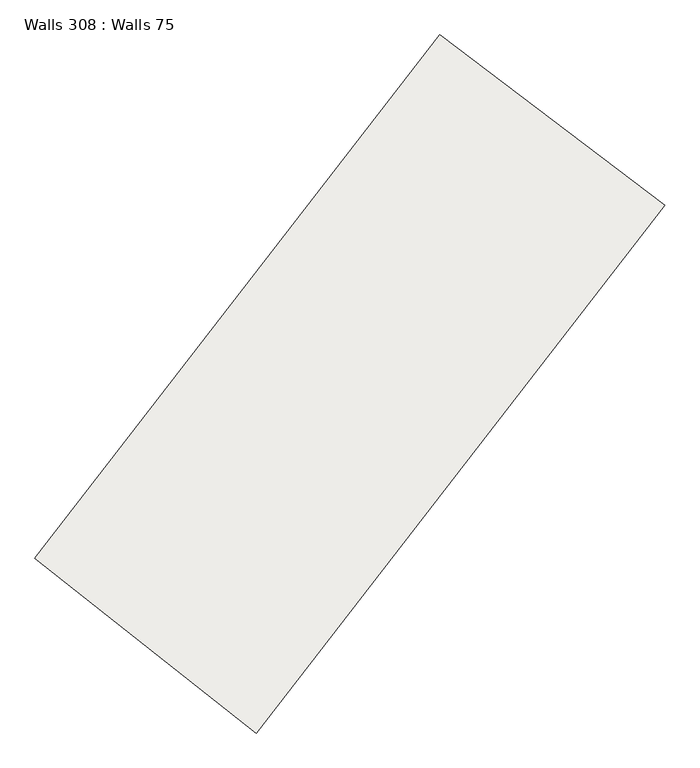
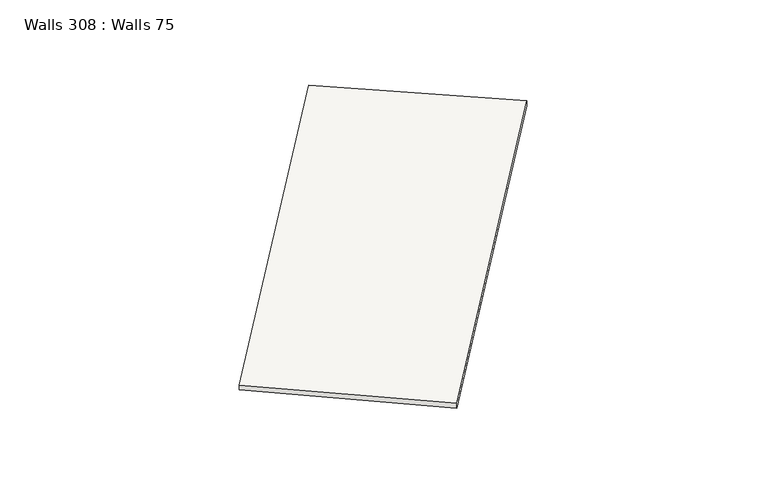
"""IFC4 building model written with IfcOpenShell, lengths in millimetres: slab geometry, Walls 308 : Walls 75."""

from ifc_helpers import new_model, si_unit, frame, origin, place, context, project, spatial, source, transform, mapped, element, save
from ifc_brep_helpers import plane_surface, spline_curve, spline_surface, advanced_brep


def walls_308_walls_75_c12e6da4(model_context):
    return source(origin(), model_context, "Body", "AdvancedBrep", [
        advanced_brep(
        [(62699.1273317, -86938.1047597, 639020.0), (65600.6248027, -89234.0386494, 639020.0), (65600.6248027, -89234.0386494, 639120.0), (62699.1273317, -86938.1047597, 639120.0), (68011.0790005, -80072.9771373, 639150.0), (68011.0790005, -80072.9771373, 639250.0), (70961.8228288, -82305.2653937, 639250.0), (70961.8228288, -82305.2653937, 639150.0)],
        [
            (0, 1),
            (1, 2),
            (2, 3),
            (3, 0),
            (4, 5),
            (5, 6),
            (6, 7),
            (7, 4),
            (5, 3, spline_curve(3, [(68011.0790005, -80072.9771373, 639250.0), (66265.384334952, -82380.518623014, 639206.666666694), (64494.594172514, -84669.074923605, 639163.333333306), (62699.1273317, -86938.1047597, 639120.0)], [4, 4], [0.0, 28.614133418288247])),
            (2, 6, spline_curve(3, [(65600.6248027, -89234.0386494, 639120.0), (67412.737164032, -86943.972955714, 639163.333333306), (69199.944073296, -84634.199772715, 639206.666666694), (70961.8228288, -82305.2653937, 639250.0)], [4, 4], [0.0, 28.614133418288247])),
            (7, 1, spline_curve(3, [(70961.8228288, -82305.2653937, 639150.0), (69199.944073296, -84634.199772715, 639106.666666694), (67412.737164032, -86943.972955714, 639063.333333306), (65600.6248027, -89234.0386494, 639020.0)], [4, 4], [0.0, 28.614133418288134])),
            (0, 4, spline_curve(3, [(62699.1273317, -86938.1047597, 639020.0), (64494.594172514, -84669.074923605, 639063.333333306), (66265.384334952, -82380.518623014, 639106.666666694), (68011.0790005, -80072.9771373, 639150.0)], [4, 4], [0.0, 28.614133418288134])),
        ],
        [
            plane_surface(frame((64149.8760672, -88086.0717045, 639070.0), z_axis=(-0.6205226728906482, -0.784188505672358, 0.0), x_axis=(-0.784188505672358, 0.6205226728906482, 0.0))),
            plane_surface(frame((69486.4509147, -81189.1212655, 639200.0), z_axis=(0.6033211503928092, 0.7974983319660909, 0.0), x_axis=(0.7974983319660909, -0.6033211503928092, 0.0))),
            spline_surface(3, 3, [[(70961.8228288, -82305.2653937, 639250.0), (69199.944073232, -84634.199772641, 639206.666666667), (67412.73716442, -86943.972956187, 639163.333333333), (65600.6248027, -89234.0386494, 639120.0)], [(69978.241552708, -81561.169308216, 639250.0), (68221.757493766, -83882.972722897, 639206.666666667), (66440.022833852, -86185.67361185, 639163.333333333), (64633.458979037, -88468.727352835, 639120.0)], [(68994.660276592, -80817.073222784, 639250.0), (67243.570914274, -83131.745673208, 639206.666666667), (65467.308503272, -85427.374267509, 639163.333333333), (63666.293155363, -87703.416056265, 639120.0)], [(68011.0790005, -80072.9771373, 639250.0), (66265.384334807, -82380.518623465, 639206.666666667), (64494.594172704, -84669.074923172, 639163.333333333), (62699.1273317, -86938.1047597, 639120.0)]], [4, 4], [4, 4], [0.0, 12.139107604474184], [0.0, 28.614133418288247]),
            spline_surface(3, 3, [[(68011.0790005, -80072.9771373, 639150.0), (66265.384334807, -82380.518623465, 639106.666666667), (64494.594172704, -84669.074923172, 639063.333333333), (62699.1273317, -86938.1047597, 639020.0)], [(68994.660276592, -80817.073222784, 639150.0), (67243.570914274, -83131.745673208, 639106.666666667), (65467.308503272, -85427.374267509, 639063.333333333), (63666.293155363, -87703.416056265, 639020.0)], [(69978.241552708, -81561.169308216, 639150.0), (68221.757493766, -83882.972722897, 639106.666666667), (66440.022833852, -86185.67361185, 639063.333333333), (64633.458979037, -88468.727352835, 639020.0)], [(70961.8228288, -82305.2653937, 639150.0), (69199.944073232, -84634.199772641, 639106.666666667), (67412.73716442, -86943.972956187, 639063.333333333), (65600.6248027, -89234.0386494, 639020.0)]], [4, 4], [4, 4], [0.0, 12.139107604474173], [0.0, 28.614133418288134]),
            spline_surface(3, 3, [[(70961.8228288, -82305.2653937, 639150.0), (69199.944073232, -84634.199772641, 639106.666666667), (67412.73716442, -86943.972956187, 639063.333333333), (65600.6248027, -89234.0386494, 639020.0)], [(70961.8228288, -82305.2653937, 639183.333333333), (69199.944073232, -84634.199772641, 639140.0), (67412.73716442, -86943.972956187, 639096.666666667), (65600.6248027, -89234.0386494, 639053.333333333)], [(70961.8228288, -82305.2653937, 639216.666666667), (69199.944073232, -84634.199772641, 639173.333333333), (67412.73716442, -86943.972956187, 639130.0), (65600.6248027, -89234.0386494, 639086.666666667)], [(70961.8228288, -82305.2653937, 639250.0), (69199.944073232, -84634.199772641, 639206.666666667), (67412.73716442, -86943.972956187, 639163.333333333), (65600.6248027, -89234.0386494, 639120.0)]], [4, 4], [4, 4], [0.0, 0.3280839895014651], [0.0, 28.7461309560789]),
            spline_surface(3, 3, [[(68011.0790005, -80072.9771373, 639250.0), (66265.384334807, -82380.518623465, 639206.666666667), (64494.594172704, -84669.074923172, 639163.333333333), (62699.1273317, -86938.1047597, 639120.0)], [(68011.0790005, -80072.9771373, 639216.666666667), (66265.384334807, -82380.518623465, 639173.333333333), (64494.594172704, -84669.074923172, 639130.0), (62699.1273317, -86938.1047597, 639086.666666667)], [(68011.0790005, -80072.9771373, 639183.333333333), (66265.384334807, -82380.518623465, 639140.0), (64494.594172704, -84669.074923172, 639096.666666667), (62699.1273317, -86938.1047597, 639053.333333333)], [(68011.0790005, -80072.9771373, 639150.0), (66265.384334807, -82380.518623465, 639106.666666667), (64494.594172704, -84669.074923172, 639063.333333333), (62699.1273317, -86938.1047597, 639020.0)]], [4, 4], [4, 4], [0.0, 0.3280839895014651], [0.0, 28.482136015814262]),
        ],
        [
            (0, [[1, 2, 3, 4]]),
            (1, [[5, 6, 7, 8]]),
            (2, [[-6, 9, -3, 10]]),
            (3, [[-8, 11, -1, 12]]),
            (4, [[-7, -10, -2, -11]]),
            (5, [[-5, -12, -4, -9]]),
        ],
    ),
    ])


if __name__ == "__main__":
    model = new_model("IFC4")
    model_context = context("Model", 3, world=origin())
    ifc_project = project(units=[si_unit("LENGTHUNIT", "METRE", prefix="MILLI")], contexts=[model_context])
    site = spatial("IfcSite", under=ifc_project)
    building = spatial("IfcBuilding", under=site)
    placement = place(None, origin())
    walls_308_walls_75_shape = walls_308_walls_75_c12e6da4(model_context)
    element("IfcSlab", 1, ObjectType="Walls 308 : Walls 75", at=placement, inside=building, context=model_context, shape_type="MappedRepresentation", body=[
        mapped(walls_308_walls_75_shape, transform((0.0, 0.0, 0.0), x_axis=(1.0, 0.0, 0.0), y_axis=(0.0, 1.0, 0.0), z_axis=(0.0, 0.0, 1.0))),
    ])
    save(model, "model.ifc")
